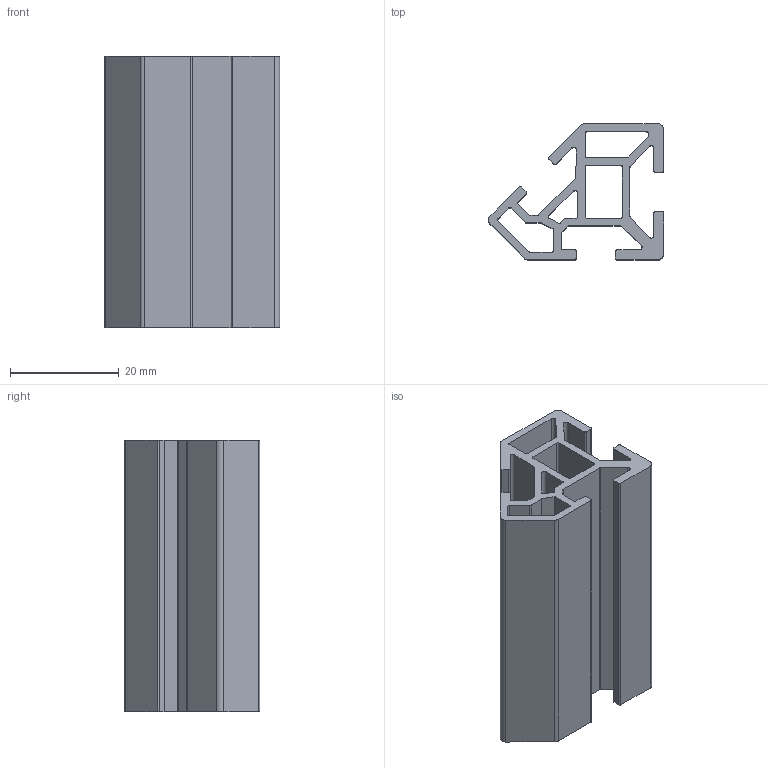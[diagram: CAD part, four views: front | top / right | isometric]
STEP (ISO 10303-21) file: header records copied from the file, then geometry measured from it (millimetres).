
FILE_DESCRIPTION(('STEP AP214'),'1');
FILE_NAME('F25P-.stp','2017-07-14T07:25:57',(' '),(' '),'Spatial InterOp 3D',' ',' ');
FILE_SCHEMA(('automotive_design'));
Length unit declared in the file: millimetre
Products named in the file (1): F25P-
Bounding box: 32.26 x 25 x 50 mm (x, y, z)
Volume: 12012 mm3; surface area: 14715.2 mm2
Topology: 1 solids, 1 shells, 104 faces, 306 edges, 204 vertices
Faces by surface type: plane 53, cylinder 51
Entity records: 4356 total; most frequent: DIRECTION 618, CARTESIAN_POINT 615, ORIENTED_EDGE 612, EDGE_CURVE 306, AXIS2_PLACEMENT_3D 207, VERTEX_POINT 204, LINE 204, VECTOR 204
